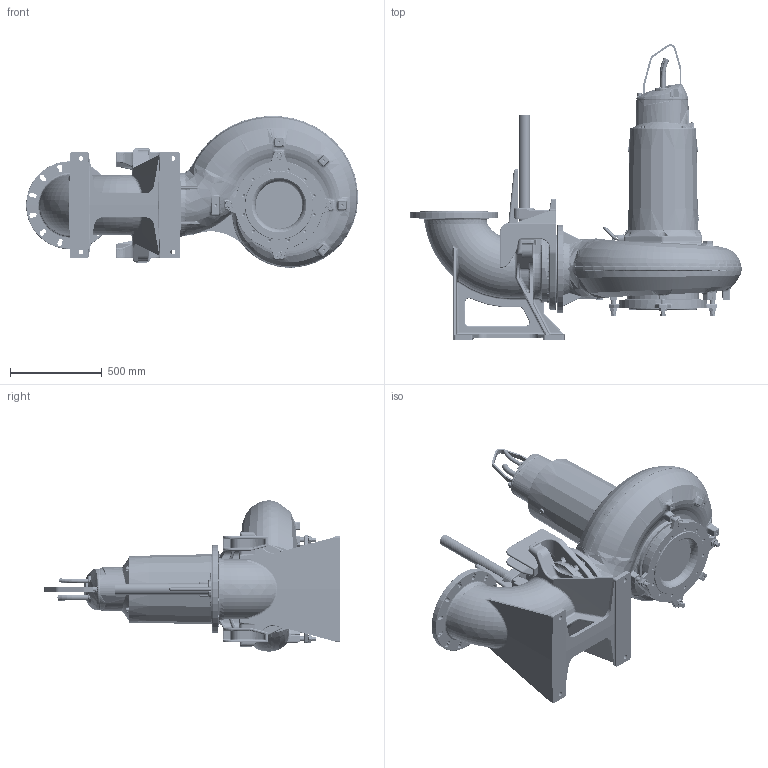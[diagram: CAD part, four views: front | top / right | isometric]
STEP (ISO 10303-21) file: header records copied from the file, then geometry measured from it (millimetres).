
FILE_DESCRIPTION (( 'STEP AP214' ), '1' );
FILE_NAME ('PE3_XFP305J-CB2_WET _NG2.STEP', '2021-02-26T12:35:47', ( '' ), ( '' ), 'SwSTEP 2.0', 'SolidWorks 2017', '' );
FILE_SCHEMA (( 'AUTOMOTIVE_DESIGN' ));
Length unit declared in the file: millimetre
Products named in the file (1): PE3_XFP305J-CB2_WET _NG2
Bounding box: 1810.9 x 1611.92 x 828.05 mm (x, y, z)
Volume: 338438207.2 mm3; surface area: 8679650.4 mm2
Topology: 58 solids, 58 shells, 5252 faces, 12785 edges, 7609 vertices
Faces by surface type: cylinder 1673, bspline 1303, plane 1270, cone 433, torus 428, sphere 145
Entity records: 314636 total; most frequent: CARTESIAN_POINT 144616, ORIENTED_EDGE 25014, DIRECTION 21286, EDGE_CURVE 12507, AXIS2_PLACEMENT_3D 8449, VERTEX_POINT 7603, EDGE_LOOP 5682, UNCERTAINTY_MEASURE_WITH_UNIT 5288
